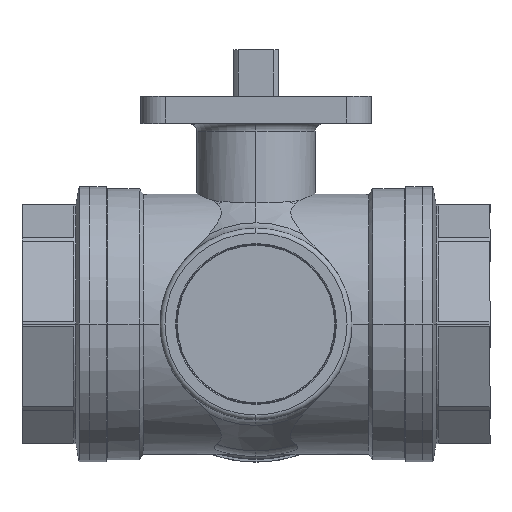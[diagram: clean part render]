
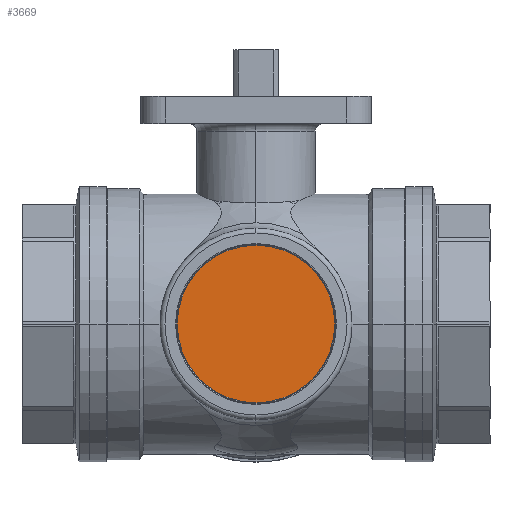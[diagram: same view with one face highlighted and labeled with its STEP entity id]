
A CAD part, top view. The second image highlights one B-rep face of the part: STEP entity #3669.
In plain terms, the highlighted planar face has unit normal (0, 0, 1).
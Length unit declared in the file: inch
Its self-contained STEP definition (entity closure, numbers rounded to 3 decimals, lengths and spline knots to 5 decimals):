
#191 = DIRECTION ( 'NONE',  ( 0., -1., 0. ) ) ;
#216 = DIRECTION ( 'NONE',  ( 0., -1., 0. ) ) ;
#749 = EDGE_CURVE ( 'NONE', #809, #6116, #1718, .T. ) ;
#809 = VERTEX_POINT ( 'NONE', #5049 ) ;
#838 = DIRECTION ( 'NONE',  ( 0., -1., 0. ) ) ;
#1718 = CIRCLE ( 'NONE', #4039, 0.965 ) ;
#2021 = PLANE ( 'NONE',  #7081 ) ;
#2279 = CIRCLE ( 'NONE', #5665, 0.965 ) ;
#3636 = ORIENTED_EDGE ( 'NONE', *, *, #749, .T. ) ;
#3669 = ADVANCED_FACE ( 'NONE', ( #4188 ), #2021, .T. ) ;
#3847 = DIRECTION ( 'NONE',  ( 0., 0., 1. ) ) ;
#3886 = DIRECTION ( 'NONE',  ( 0., 0., 1. ) ) ;
#4039 = AXIS2_PLACEMENT_3D ( 'NONE', #5103, #6330, #838 ) ;
#4188 = FACE_OUTER_BOUND ( 'NONE', #6951, .T. ) ;
#4685 = EDGE_CURVE ( 'NONE', #6116, #809, #2279, .T. ) ;
#5049 = CARTESIAN_POINT ( 'NONE',  ( 0., -0.965, 1.75 ) ) ;
#5103 = CARTESIAN_POINT ( 'NONE',  ( 0., 0., 1.75 ) ) ;
#5665 = AXIS2_PLACEMENT_3D ( 'NONE', #7523, #3847, #191 ) ;
#6116 = VERTEX_POINT ( 'NONE', #6420 ) ;
#6330 = DIRECTION ( 'NONE',  ( 0., 0., 1. ) ) ;
#6420 = CARTESIAN_POINT ( 'NONE',  ( 0., 0.965, 1.75 ) ) ;
#6772 = ORIENTED_EDGE ( 'NONE', *, *, #4685, .T. ) ;
#6950 = CARTESIAN_POINT ( 'NONE',  ( 0., 0., 1.75 ) ) ;
#6951 = EDGE_LOOP ( 'NONE', ( #3636, #6772 ) ) ;
#7081 = AXIS2_PLACEMENT_3D ( 'NONE', #6950, #3886, #216 ) ;
#7523 = CARTESIAN_POINT ( 'NONE',  ( 0., 0., 1.75 ) ) ;
